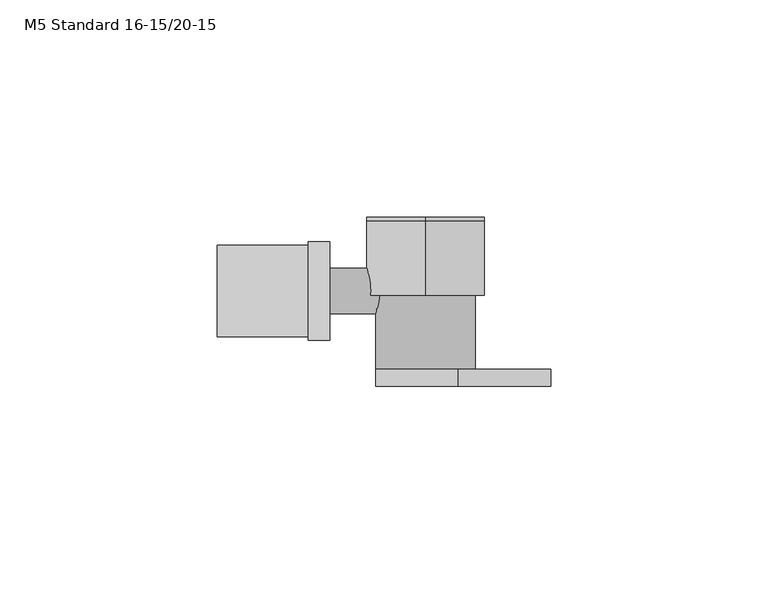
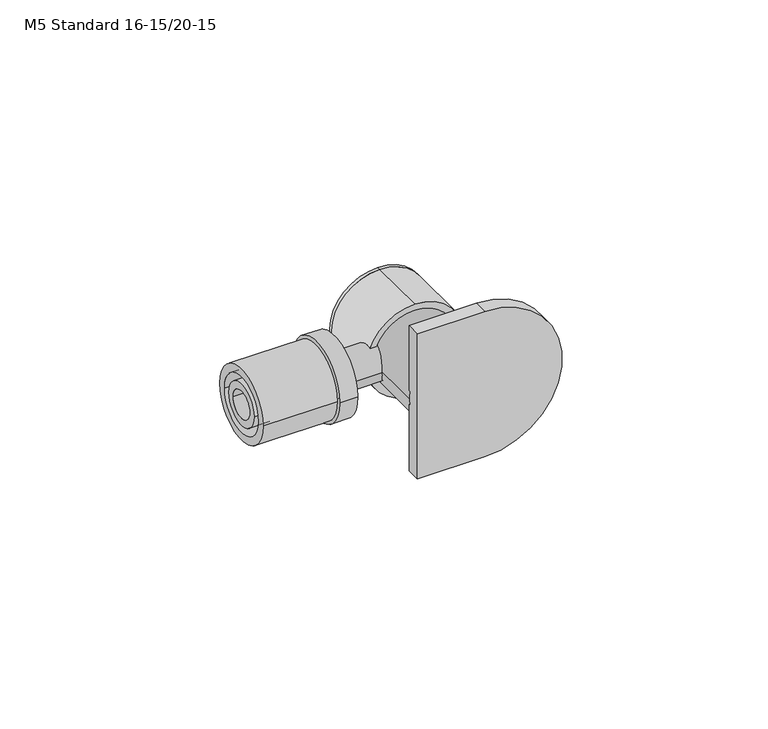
"""IFC4 building model written with IfcOpenShell, lengths in millimetres: pipe fitting geometry, PIF_Tigris_Wall_Flange_Elbow_M-K_FMT_Wavin_(nested) : M5 Standard 16-15/20-15."""

from ifc_helpers import new_model, si_unit, point, frame, origin, origin_2d, place, context, project, spatial, circle_curve, trimmed, segment, composite_curve, outline, extrude, source, transform, mapped, element, save
from ifc_brep_helpers import plane_surface, cylinder_surface, advanced_brep


def m5_standard_16_15_20_15_f5922961(model_context):
    return source(origin(), model_context, "Body", "SolidModel", [
        advanced_brep(
        [(11.5, 0.0, 0.0), (-11.5, 0.0, 0.0), (7.5, -22.0, -21.5), (7.5, -22.0, 21.5), (-11.5, -22.0, 21.5), (-11.5, -22.0, -21.5), (-11.5, -18.0, 0.0), (11.5, -18.0, 0.0), (7.5, -18.0, -21.5), (-11.5, -18.0, -21.5), (-11.5, -18.0, 21.5), (7.5, -18.0, 21.5)],
        [
            (0, 1, circle_curve(frame((0.0, 0.0, 0.0), z_axis=(0.0, 1.0, 0.0), x_axis=(-1.0000000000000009, 0.0, 0.0)), 11.5)),
            (1, 0, circle_curve(frame((0.0, 0.0, 0.0), z_axis=(0.0, 1.0, 0.0), x_axis=(-1.0000000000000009, 0.0, 0.0)), 11.5)),
            (2, 3, circle_curve(frame((7.5, -22.0, 0.0), z_axis=(0.0, -1.0, 0.0), x_axis=(0.0, 0.0, 1.0000000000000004)), 21.5)),
            (3, 4),
            (4, 5),
            (5, 2),
            (1, 6),
            (6, 7, circle_curve(frame((0.0, -18.0, 0.0), z_axis=(0.0, 1.0, 0.0), x_axis=(-1.0000000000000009, 0.0, 0.0)), 11.5)),
            (7, 0),
            (7, 6, circle_curve(frame((0.0, -18.0, 0.0), z_axis=(0.0, 1.0, 0.0), x_axis=(-1.0000000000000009, 0.0, 0.0)), 11.5)),
            (8, 9),
            (9, 6),
            (6, 10),
            (10, 11),
            (11, 8, circle_curve(frame((7.5, -18.0, 0.0), z_axis=(0.0, 1.0, 0.0), x_axis=(0.0, 0.0, 1.0000000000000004)), 21.5)),
            (11, 3),
            (2, 8),
            (5, 9),
            (4, 10),
        ],
        [
            plane_surface(frame((0.0, 0.0, 0.0), z_axis=(0.0, 1.0, 0.0), x_axis=(0.0, 0.0, 1.0))),
            plane_surface(frame((0.0, -22.0, 0.0), z_axis=(0.0, -1.0, 0.0), x_axis=(0.0, 0.0, 1.0))),
            cylinder_surface(frame((0.0, 0.0, 0.0), z_axis=(0.0, 1.0000000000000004, 0.0), x_axis=(-1.0000000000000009, 0.0, 0.0)), 11.5),
            plane_surface(frame((-11.5, -18.0, -21.5), z_axis=(0.0, 1.0, 0.0), x_axis=(1.0, 0.0, 0.0))),
            cylinder_surface(frame((7.5, -18.0, 0.0), z_axis=(0.0, -1.0000000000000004, 0.0), x_axis=(0.0, 0.0, 1.0000000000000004)), 21.5),
            plane_surface(frame((7.5, -22.0, -21.5), z_axis=(0.0, 0.0, -1.0), x_axis=(0.0, 1.0, 0.0))),
            plane_surface(frame((-11.5, -22.0, -21.5), z_axis=(-1.0, 0.0, 0.0), x_axis=(0.0, 1.0, 0.0))),
            plane_surface(frame((-11.5, -22.0, 21.5), z_axis=(0.0, 0.0, 1.0), x_axis=(0.0, 1.0, 0.0))),
        ],
        [
            (0, [[1, 2]]),
            (1, [[3, 4, 5, 6]]),
            (2, [[7, 8, 9, -2]]),
            (2, [[-9, 10, -7, -1]]),
            (3, [[11, 12, -10, -8, 13, 14, 15]]),
            (4, [[16, -3, 17, -15]]),
            (5, [[-17, -6, 18, -11]]),
            (6, [[19, -13, -12, -18, -5]]),
            (7, [[-19, -4, -16, -14]]),
        ],
    ),
        extrude(outline(composite_curve([segment(trimmed(circle_curve(origin_2d(), 13.5), [point((-13.5, 0.0))], [point((13.5, 0.0))], False, "CARTESIAN"), True, "CONTINUOUS"), segment(trimmed(circle_curve(origin_2d(), 13.5), [point((13.5, 0.0))], [point((-13.5, 0.0))], False, "CARTESIAN"), True, "CONTINUOUS")], self_intersect=False)), frame((0.0, -1.0, 0.0), z_axis=(0.0, 1.0, 0.0), x_axis=(0.0, 0.0, 1.0)), (0.0, 0.0, 1.0), 17.0),
        extrude(outline(composite_curve([segment(trimmed(circle_curve(origin_2d(), 13.5), [point((-13.5, 0.0))], [point((13.5, 0.0))], False, "CARTESIAN"), True, "CONTINUOUS"), segment(trimmed(circle_curve(origin_2d(), 13.5), [point((13.5, 0.0))], [point((-13.5, 0.0))], False, "CARTESIAN"), True, "CONTINUOUS")], self_intersect=False)), frame((0.0, 16.0, 0.0), z_axis=(0.0, 1.0, 0.0), x_axis=(0.0, 0.0, 1.0)), (0.0, 0.0, 1.0), 1.0),
        extrude(outline(composite_curve([segment(trimmed(circle_curve(origin_2d(), 11.35), [point((-11.35, 0.0))], [point((11.35, 0.0))], False, "CARTESIAN"), True, "CONTINUOUS"), segment(trimmed(circle_curve(origin_2d(), 11.35), [point((11.35, 0.0))], [point((-11.35, 0.0))], False, "CARTESIAN"), True, "CONTINUOUS")], self_intersect=False)), frame((-27.0, 0.0, 0.0), z_axis=(1.0, 0.0, 0.0), x_axis=(0.0, 1.0, 0.0)), (0.0, 0.0, 1.0), 5.0),
        extrude(outline(composite_curve([segment(trimmed(circle_curve(origin_2d(), 10.5), [point((-10.5, 0.0))], [point((10.5, 0.0))], False, "CARTESIAN"), True, "CONTINUOUS"), segment(trimmed(circle_curve(origin_2d(), 10.5), [point((10.5, 0.0))], [point((-10.5, 0.0))], False, "CARTESIAN"), True, "CONTINUOUS")], self_intersect=False), holes=[composite_curve([segment(trimmed(circle_curve(origin_2d(), 8.2), [point((-8.2, 0.0))], [point((8.2, 0.0))], True, "CARTESIAN"), True, "CONTINUOUS"), segment(trimmed(circle_curve(origin_2d(), 8.2), [point((8.2, 0.0))], [point((-8.2, 0.0))], True, "CARTESIAN"), True, "CONTINUOUS")], self_intersect=False)]), frame((-48.0, 0.0, 0.0), z_axis=(1.0, 0.0, 0.0), x_axis=(0.0, 1.0, 0.0)), (0.0, 0.0, 1.0), 21.0),
        extrude(outline(composite_curve([segment(trimmed(circle_curve(origin_2d(), 6.1), [point((-6.1, 0.0))], [point((6.1, 0.0))], False, "CARTESIAN"), True, "CONTINUOUS"), segment(trimmed(circle_curve(origin_2d(), 6.1), [point((6.1, 0.0))], [point((-6.1, 0.0))], False, "CARTESIAN"), True, "CONTINUOUS")], self_intersect=False), holes=[composite_curve([segment(trimmed(circle_curve(origin_2d(), 4.0), [point((-4.0, 0.0))], [point((4.0, 0.0))], True, "CARTESIAN"), True, "CONTINUOUS"), segment(trimmed(circle_curve(origin_2d(), 4.0), [point((4.0, 0.0))], [point((-4.0, 0.0))], True, "CARTESIAN"), True, "CONTINUOUS")], self_intersect=False)]), frame((-48.0, 0.0, 0.0), z_axis=(1.0, 0.0, 0.0), x_axis=(0.0, 1.0, 0.0)), (0.0, 0.0, 1.0), 25.0),
        extrude(outline(composite_curve([segment(trimmed(circle_curve(origin_2d(), 5.25), [point((0.0, 5.25))], [point((0.0, -5.25))], False, "CARTESIAN"), True, "CONTINUOUS"), segment(trimmed(circle_curve(origin_2d(), 5.25), [point((0.0, -5.25))], [point((0.0, 5.25))], False, "CARTESIAN"), True, "CONTINUOUS")], self_intersect=False)), frame((0.0, 0.0, 0.0), z_axis=(0.0, 1.0, 0.0), x_axis=(0.0, 0.0, 1.0)), (0.0, 0.0, 1.0), 6.0),
        extrude(outline(composite_curve([segment(trimmed(circle_curve(origin_2d(), 5.25), [point((-5.25, 0.0))], [point((5.25, 0.0))], False, "CARTESIAN"), True, "CONTINUOUS"), segment(trimmed(circle_curve(origin_2d(), 5.25), [point((5.25, 0.0))], [point((-5.25, 0.0))], False, "CARTESIAN"), True, "CONTINUOUS")], self_intersect=False)), frame((-23.0, 0.0, 0.0), z_axis=(1.0, 0.0, 0.0), x_axis=(0.0, 1.0, 0.0)), (0.0, 0.0, 1.0), 23.0),
    ])


if __name__ == "__main__":
    model = new_model("IFC4")
    model_context = context("Model", 3, world=origin())
    ifc_project = project(units=[si_unit("LENGTHUNIT", "METRE", prefix="MILLI")], contexts=[model_context])
    site = spatial("IfcSite", under=ifc_project)
    building = spatial("IfcBuilding", under=site)
    placement = place(None, origin())
    m5_standard_16_15_20_15_shape = m5_standard_16_15_20_15_f5922961(model_context)
    element("IfcPipeFitting", 1, ObjectType="PIF_Tigris_Wall_Flange_Elbow_M-K_FMT_Wavin_(nested) : M5 Standard 16-15/20-15", at=placement, inside=building, context=model_context, shape_type="MappedRepresentation", body=[
        mapped(m5_standard_16_15_20_15_shape, transform((0.0, 0.0, 0.0), x_axis=(1.0, 0.0, 0.0), y_axis=(0.0, 1.0, 0.0), z_axis=(0.0, 0.0, 1.0))),
    ])
    save(model, "model.ifc")
